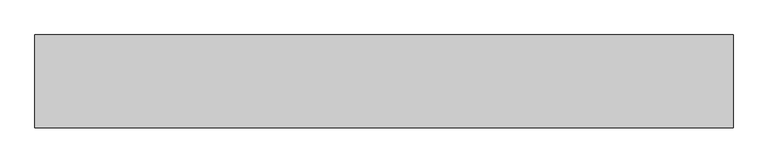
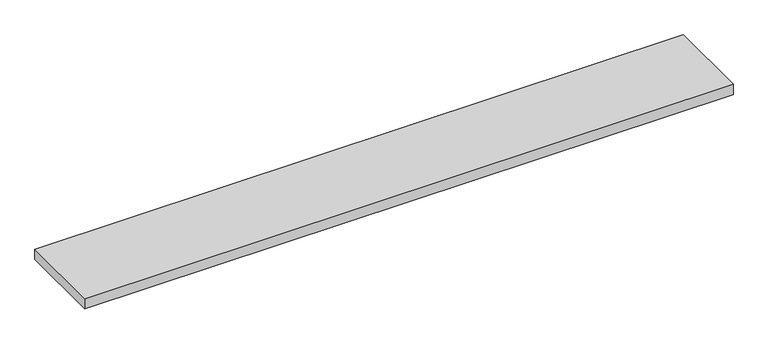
"""IFC4 building model written with IfcOpenShell, lengths in millimetres: proxy geometry, Vita_Решетка : РАП_Алюминиевая продольная."""

from ifc_helpers import new_model, si_unit, frame, origin, place, context, project, spatial, polyline, outline, extrude, source, transform, mapped, element, save


def mechanical_equipment_4ccbe27a(model_context):
    return source(origin(), model_context, "Body", "SweptSolid", [
        extrude(outline(polyline([(-599.0, -112.8), (599.0, -112.8), (599.0, -272.2), (-599.0, -272.2), (-599.0, -112.8)])), frame((0.0, 0.0, 479.83), z_axis=(0.0, 0.0, 1.0), x_axis=(1.0, 0.0, 0.0)), (0.0, 0.0, 1.0), 20.17),
    ])


if __name__ == "__main__":
    model = new_model("IFC4")
    model_context = context("Model", 3, world=origin())
    ifc_project = project(units=[si_unit("LENGTHUNIT", "METRE", prefix="MILLI")], contexts=[model_context])
    site = spatial("IfcSite", under=ifc_project)
    building = spatial("IfcBuilding", under=site)
    placement = place(None, origin())
    mechanical_equipment_shape = mechanical_equipment_4ccbe27a(model_context)
    element("IfcBuildingElementProxy", 1, Name="Vita_Решетка : РАП_Алюминиевая продольная", ObjectType="Vita_Решетка : РАП_Алюминиевая продольная", at=placement, inside=building, context=model_context, shape_type="MappedRepresentation", body=[
        mapped(mechanical_equipment_shape, transform((0.0, 0.0, 0.0), x_axis=(1.0, 0.0, 0.0), y_axis=(0.0, 1.0, 0.0), z_axis=(0.0, 0.0, 1.0))),
    ])
    save(model, "model.ifc")
